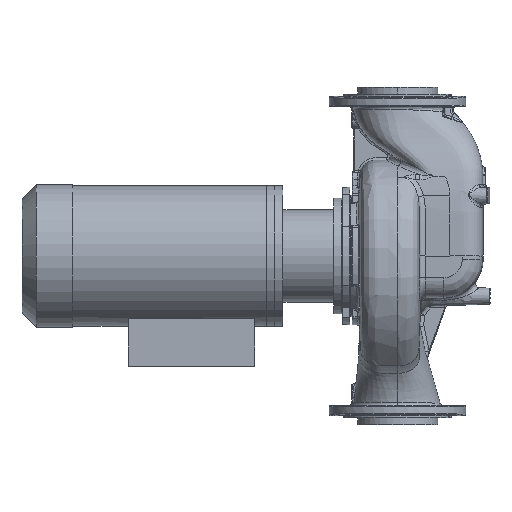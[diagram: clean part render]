
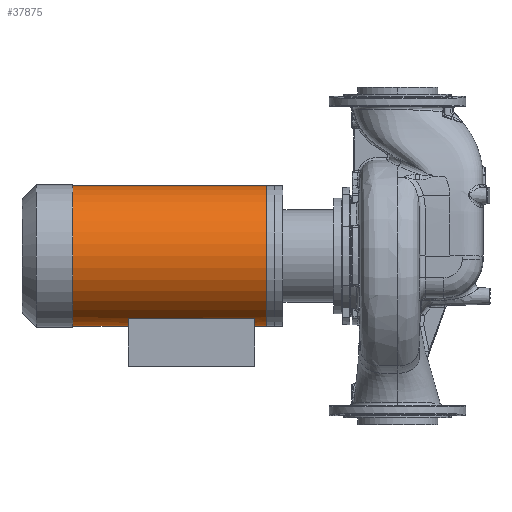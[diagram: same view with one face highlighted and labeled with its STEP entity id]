
A CAD part, left-side view. The second image highlights one B-rep face of the part: STEP entity #37875.
In plain terms, the highlighted cylindrical face has radius 174.5 mm (diameter 349 mm), a partial arc.
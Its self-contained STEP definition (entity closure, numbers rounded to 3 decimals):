
#78 = CARTESIAN_POINT ( 'NONE',  ( 0., 809.8, 0. ) ) ;
#835 = DIRECTION ( 'NONE',  ( 0., -1., 0. ) ) ;
#1086 = DIRECTION ( 'NONE',  ( 0., 0., -1. ) ) ;
#2175 = DIRECTION ( 'NONE',  ( 0., 0., -1. ) ) ;
#4391 = EDGE_CURVE ( 'NONE', #44347, #45400, #16966, .T. ) ;
#5362 = EDGE_CURVE ( 'NONE', #67928, #20120, #59577, .T. ) ;
#5396 = VERTEX_POINT ( 'NONE', #53587 ) ;
#7220 = CARTESIAN_POINT ( 'NONE',  ( 0., 305.8, -174.5 ) ) ;
#8002 = CARTESIAN_POINT ( 'NONE',  ( 0., 305.8, 0. ) ) ;
#8366 = EDGE_CURVE ( 'NONE', #45400, #54874, #46746, .T. ) ;
#8370 = AXIS2_PLACEMENT_3D ( 'NONE', #28414, #74748, #11669 ) ;
#11669 = DIRECTION ( 'NONE',  ( 0., 0., -1. ) ) ;
#14447 = CARTESIAN_POINT ( 'NONE',  ( 0., 325.8, 0. ) ) ;
#16528 = ORIENTED_EDGE ( 'NONE', *, *, #8366, .T. ) ;
#16966 = CIRCLE ( 'NONE', #23732, 174.5 ) ;
#19688 = EDGE_CURVE ( 'NONE', #54874, #22514, #53709, .T. ) ;
#20120 = VERTEX_POINT ( 'NONE', #23006 ) ;
#22399 = ORIENTED_EDGE ( 'NONE', *, *, #30469, .T. ) ;
#22495 = AXIS2_PLACEMENT_3D ( 'NONE', #58596, #41352, #1086 ) ;
#22514 = VERTEX_POINT ( 'NONE', #71746 ) ;
#22678 = VERTEX_POINT ( 'NONE', #43785 ) ;
#23006 = CARTESIAN_POINT ( 'NONE',  ( 0., 325.8, -174.5 ) ) ;
#23732 = AXIS2_PLACEMENT_3D ( 'NONE', #78, #835, #58597 ) ;
#28414 = CARTESIAN_POINT ( 'NONE',  ( 0., 670.8, 0. ) ) ;
#28544 = DIRECTION ( 'NONE',  ( 0., -1., 0. ) ) ;
#28748 = VECTOR ( 'NONE', #47740, 1000. ) ;
#30469 = EDGE_CURVE ( 'NONE', #22514, #22678, #52650, .T. ) ;
#31587 = DIRECTION ( 'NONE',  ( 0., -1., 0. ) ) ;
#31722 = DIRECTION ( 'NONE',  ( 0., 0., -1. ) ) ;
#31791 = ORIENTED_EDGE ( 'NONE', *, *, #5362, .T. ) ;
#32895 = ORIENTED_EDGE ( 'NONE', *, *, #68943, .T. ) ;
#34845 = CARTESIAN_POINT ( 'NONE',  ( 0., 670.8, -174.5 ) ) ;
#35619 = DIRECTION ( 'NONE',  ( 0., -1., 0. ) ) ;
#37875 = ADVANCED_FACE ( 'NONE', ( #46107 ), #62429, .T. ) ;
#39622 = CARTESIAN_POINT ( 'NONE',  ( 0., 355.8, -174.5 ) ) ;
#41352 = DIRECTION ( 'NONE',  ( 0., -1., 0. ) ) ;
#41489 = ORIENTED_EDGE ( 'NONE', *, *, #19688, .T. ) ;
#42281 = VECTOR ( 'NONE', #28544, 1000. ) ;
#42574 = DIRECTION ( 'NONE',  ( 0., 1., 0. ) ) ;
#43785 = CARTESIAN_POINT ( 'NONE',  ( -79., 355.8, -155.593 ) ) ;
#44153 = ORIENTED_EDGE ( 'NONE', *, *, #4391, .T. ) ;
#44347 = VERTEX_POINT ( 'NONE', #64977 ) ;
#44973 = VECTOR ( 'NONE', #52846, 1000. ) ;
#45400 = VERTEX_POINT ( 'NONE', #56065 ) ;
#46001 = ORIENTED_EDGE ( 'NONE', *, *, #59430, .F. ) ;
#46107 = FACE_OUTER_BOUND ( 'NONE', #48750, .T. ) ;
#46746 = LINE ( 'NONE', #65242, #44973 ) ;
#47740 = DIRECTION ( 'NONE',  ( 0., -1., 0. ) ) ;
#48750 = EDGE_LOOP ( 'NONE', ( #46001, #44153, #16528, #41489, #22399, #32895, #31791, #70147 ) ) ;
#50412 = CIRCLE ( 'NONE', #72706, 174.5 ) ;
#52076 = CARTESIAN_POINT ( 'NONE',  ( -79., 305.8, -155.593 ) ) ;
#52650 = LINE ( 'NONE', #52076, #74373 ) ;
#52846 = DIRECTION ( 'NONE',  ( 0., -1., 0. ) ) ;
#53587 = CARTESIAN_POINT ( 'NONE',  ( 0., 325.8, 174.5 ) ) ;
#53709 = CIRCLE ( 'NONE', #8370, 174.5 ) ;
#54874 = VERTEX_POINT ( 'NONE', #34845 ) ;
#55632 = CIRCLE ( 'NONE', #22495, 174.5 ) ;
#56065 = CARTESIAN_POINT ( 'NONE',  ( 0., 809.8, -174.5 ) ) ;
#57410 = CARTESIAN_POINT ( 'NONE',  ( 0., 305.8, 174.5 ) ) ;
#58596 = CARTESIAN_POINT ( 'NONE',  ( 0., 355.8, 0. ) ) ;
#58597 = DIRECTION ( 'NONE',  ( 0., 0., -1. ) ) ;
#59430 = EDGE_CURVE ( 'NONE', #44347, #5396, #65872, .T. ) ;
#59577 = LINE ( 'NONE', #7220, #28748 ) ;
#60305 = EDGE_CURVE ( 'NONE', #20120, #5396, #50412, .T. ) ;
#62429 = CYLINDRICAL_SURFACE ( 'NONE', #72188, 174.5 ) ;
#64977 = CARTESIAN_POINT ( 'NONE',  ( 0., 809.8, 174.5 ) ) ;
#65242 = CARTESIAN_POINT ( 'NONE',  ( 0., 305.8, -174.5 ) ) ;
#65872 = LINE ( 'NONE', #57410, #42281 ) ;
#67928 = VERTEX_POINT ( 'NONE', #39622 ) ;
#68943 = EDGE_CURVE ( 'NONE', #22678, #67928, #55632, .T. ) ;
#70147 = ORIENTED_EDGE ( 'NONE', *, *, #60305, .T. ) ;
#71746 = CARTESIAN_POINT ( 'NONE',  ( -79., 670.8, -155.593 ) ) ;
#72188 = AXIS2_PLACEMENT_3D ( 'NONE', #8002, #31587, #2175 ) ;
#72706 = AXIS2_PLACEMENT_3D ( 'NONE', #14447, #42574, #31722 ) ;
#74373 = VECTOR ( 'NONE', #35619, 1000. ) ;
#74748 = DIRECTION ( 'NONE',  ( 0., 1., 0. ) ) ;
